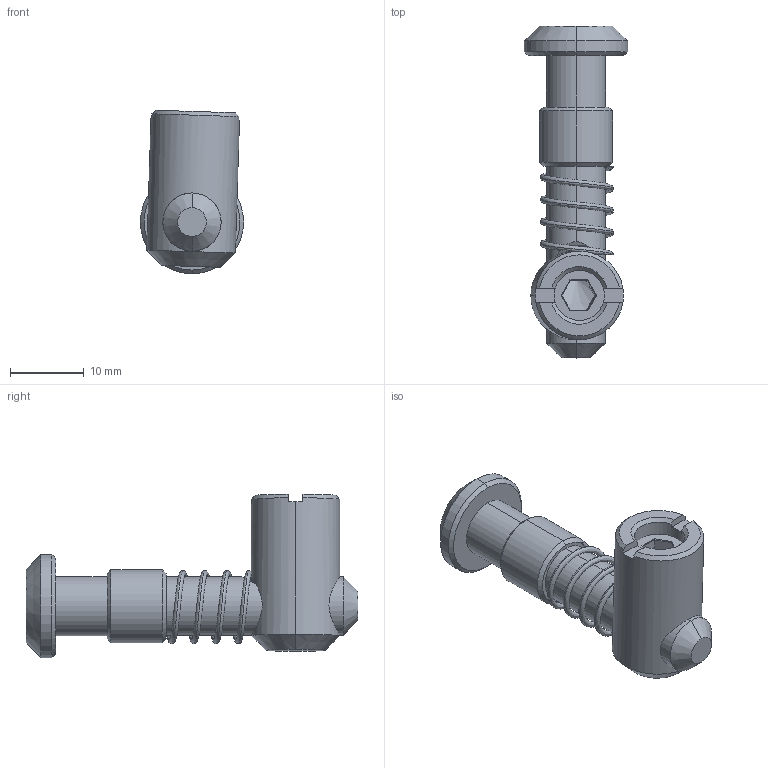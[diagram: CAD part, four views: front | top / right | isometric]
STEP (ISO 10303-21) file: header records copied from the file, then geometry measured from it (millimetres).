
FILE_DESCRIPTION (( 'STEP AP214' ), '1' );
FILE_NAME ('2.03.spuc.STEP', '2015-05-30T09:29:38', ( '' ), ( '' ), 'SwSTEP 2.0', 'SolidWorks 2015', '' );
FILE_SCHEMA (( 'AUTOMOTIVE_DESIGN' ));
Length unit declared in the file: millimetre
Products named in the file (1): 2.03.spuc
Bounding box: 14 x 45 x 22.16 mm (x, y, z)
Surface area: 3181.5 mm2 (no closed solid volume)
Topology: 0 solids, 4 shells, 63 faces, 152 edges, 95 vertices
Faces by surface type: plane 29, cone 18, cylinder 14, bspline 2
Entity records: 3212 total; most frequent: CARTESIAN_POINT 1731, DIRECTION 296, ORIENTED_EDGE 292, EDGE_CURVE 150, AXIS2_PLACEMENT_3D 110, VERTEX_POINT 95, VECTOR 76, LINE 76
